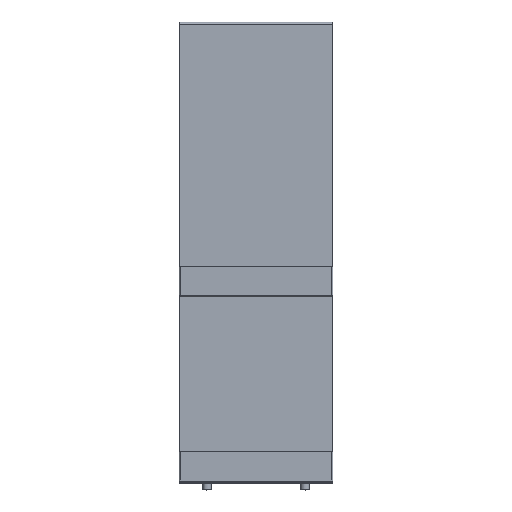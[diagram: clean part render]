
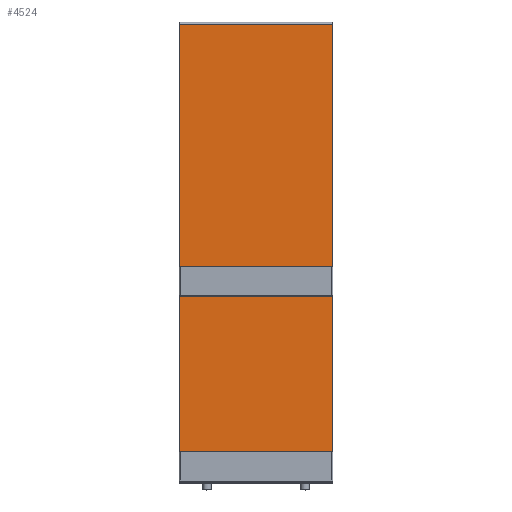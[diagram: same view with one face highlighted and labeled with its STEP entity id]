
A CAD part, top view. The second image highlights one B-rep face of the part: STEP entity #4524.
In plain terms, the highlighted planar face has unit normal (0, 0, 1).
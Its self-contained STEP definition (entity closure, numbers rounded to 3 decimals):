
#159 = CIRCLE ( 'NONE', #1871, 5.5 ) ;
#178 = LINE ( 'NONE', #1834, #4677 ) ;
#263 = DIRECTION ( 'NONE',  ( 1., 0., 0. ) ) ;
#331 = CARTESIAN_POINT ( 'NONE',  ( 105., -50.19, 0. ) ) ;
#370 = CIRCLE ( 'NONE', #1291, 5. ) ;
#415 = VERTEX_POINT ( 'NONE', #5959 ) ;
#418 = DIRECTION ( 'NONE',  ( 0., 0., 1. ) ) ;
#446 = CIRCLE ( 'NONE', #6057, 5.5 ) ;
#537 = CARTESIAN_POINT ( 'NONE',  ( 125., -375., 0. ) ) ;
#605 = AXIS2_PLACEMENT_3D ( 'NONE', #797, #2954, #2884 ) ;
#642 = VERTEX_POINT ( 'NONE', #5019 ) ;
#737 = FACE_OUTER_BOUND ( 'NONE', #3406, .T. ) ;
#797 = CARTESIAN_POINT ( 'NONE',  ( -105., -50.19, 0. ) ) ;
#810 = FACE_BOUND ( 'NONE', #2829, .T. ) ;
#823 = CARTESIAN_POINT ( 'NONE',  ( -125., 372., 0. ) ) ;
#1025 = CARTESIAN_POINT ( 'NONE',  ( -105., -351.5, 0. ) ) ;
#1083 = AXIS2_PLACEMENT_3D ( 'NONE', #2013, #5807, #3083 ) ;
#1138 = ORIENTED_EDGE ( 'NONE', *, *, #1433, .F. ) ;
#1143 = VERTEX_POINT ( 'NONE', #823 ) ;
#1291 = AXIS2_PLACEMENT_3D ( 'NONE', #7001, #2945, #4577 ) ;
#1335 = EDGE_CURVE ( 'NONE', #4429, #2217, #178, .T. ) ;
#1384 = ORIENTED_EDGE ( 'NONE', *, *, #6190, .F. ) ;
#1433 = EDGE_CURVE ( 'NONE', #6436, #4389, #446, .T. ) ;
#1560 = ORIENTED_EDGE ( 'NONE', *, *, #4257, .F. ) ;
#1744 = DIRECTION ( 'NONE',  ( 0., 0., 1. ) ) ;
#1834 = CARTESIAN_POINT ( 'NONE',  ( 125., -372., 0. ) ) ;
#1871 = AXIS2_PLACEMENT_3D ( 'NONE', #1025, #1744, #4415 ) ;
#1878 = VECTOR ( 'NONE', #7062, 1000. ) ;
#1907 = DIRECTION ( 'NONE',  ( 0., 0., 1. ) ) ;
#1976 = CARTESIAN_POINT ( 'NONE',  ( 125., 372., 0. ) ) ;
#2013 = CARTESIAN_POINT ( 'NONE',  ( -105., -50.19, 0. ) ) ;
#2068 = EDGE_CURVE ( 'NONE', #4556, #2670, #4010, .T. ) ;
#2217 = VERTEX_POINT ( 'NONE', #4393 ) ;
#2434 = CARTESIAN_POINT ( 'NONE',  ( 125., -372., 0. ) ) ;
#2470 = FACE_BOUND ( 'NONE', #5500, .T. ) ;
#2510 = LINE ( 'NONE', #1976, #6908 ) ;
#2559 = AXIS2_PLACEMENT_3D ( 'NONE', #6825, #4177, #6858 ) ;
#2582 = AXIS2_PLACEMENT_3D ( 'NONE', #2796, #4391, #7050 ) ;
#2670 = VERTEX_POINT ( 'NONE', #4351 ) ;
#2763 = EDGE_CURVE ( 'NONE', #1143, #2217, #5188, .T. ) ;
#2796 = CARTESIAN_POINT ( 'NONE',  ( -105., -351.5, 0. ) ) ;
#2829 = EDGE_LOOP ( 'NONE', ( #4537, #5333 ) ) ;
#2884 = DIRECTION ( 'NONE',  ( 1., 0., 0. ) ) ;
#2894 = FACE_BOUND ( 'NONE', #6931, .T. ) ;
#2945 = DIRECTION ( 'NONE',  ( 0., 0., 1. ) ) ;
#2954 = DIRECTION ( 'NONE',  ( 0., 0., 1. ) ) ;
#3000 = FACE_BOUND ( 'NONE', #6119, .T. ) ;
#3048 = DIRECTION ( 'NONE',  ( 1., 0., 0. ) ) ;
#3083 = DIRECTION ( 'NONE',  ( 1., 0., 0. ) ) ;
#3182 = DIRECTION ( 'NONE',  ( -1., 0., 0. ) ) ;
#3406 = EDGE_LOOP ( 'NONE', ( #5696, #6568, #3824, #5728 ) ) ;
#3451 = DIRECTION ( 'NONE',  ( -1., 0., 0. ) ) ;
#3548 = CARTESIAN_POINT ( 'NONE',  ( -99.5, -351.5, 0. ) ) ;
#3824 = ORIENTED_EDGE ( 'NONE', *, *, #4663, .T. ) ;
#3929 = DIRECTION ( 'NONE',  ( 0., -1., 0. ) ) ;
#4010 = CIRCLE ( 'NONE', #4917, 5. ) ;
#4060 = ORIENTED_EDGE ( 'NONE', *, *, #6195, .F. ) ;
#4119 = DIRECTION ( 'NONE',  ( 1., 0., 0. ) ) ;
#4177 = DIRECTION ( 'NONE',  ( 0., 0., 1. ) ) ;
#4227 = EDGE_CURVE ( 'NONE', #2670, #4556, #370, .T. ) ;
#4243 = VERTEX_POINT ( 'NONE', #5437 ) ;
#4250 = CARTESIAN_POINT ( 'NONE',  ( 105., -351.5, 0. ) ) ;
#4257 = EDGE_CURVE ( 'NONE', #5072, #5536, #159, .T. ) ;
#4351 = CARTESIAN_POINT ( 'NONE',  ( 100., -50.19, 0. ) ) ;
#4389 = VERTEX_POINT ( 'NONE', #6109 ) ;
#4391 = DIRECTION ( 'NONE',  ( 0., 0., 1. ) ) ;
#4393 = CARTESIAN_POINT ( 'NONE',  ( -125., -372., 0. ) ) ;
#4415 = DIRECTION ( 'NONE',  ( 1., 0., 0. ) ) ;
#4429 = VERTEX_POINT ( 'NONE', #2434 ) ;
#4524 = ADVANCED_FACE ( 'NONE', ( #810, #3000, #2470, #2894, #737 ), #4634, .T. ) ;
#4537 = ORIENTED_EDGE ( 'NONE', *, *, #2068, .F. ) ;
#4556 = VERTEX_POINT ( 'NONE', #6417 ) ;
#4577 = DIRECTION ( 'NONE',  ( 1., 0., 0. ) ) ;
#4634 = PLANE ( 'NONE',  #2559 ) ;
#4663 = EDGE_CURVE ( 'NONE', #4429, #415, #4843, .T. ) ;
#4677 = VECTOR ( 'NONE', #3451, 1000. ) ;
#4843 = LINE ( 'NONE', #537, #1878 ) ;
#4849 = CIRCLE ( 'NONE', #2582, 5.5 ) ;
#4871 = EDGE_CURVE ( 'NONE', #642, #4243, #5191, .T. ) ;
#4905 = CARTESIAN_POINT ( 'NONE',  ( -110.5, -351.5, 0. ) ) ;
#4917 = AXIS2_PLACEMENT_3D ( 'NONE', #331, #5823, #263 ) ;
#5019 = CARTESIAN_POINT ( 'NONE',  ( -110., -50.19, 0. ) ) ;
#5072 = VERTEX_POINT ( 'NONE', #3548 ) ;
#5159 = EDGE_CURVE ( 'NONE', #415, #1143, #2510, .T. ) ;
#5188 = LINE ( 'NONE', #6262, #6189 ) ;
#5191 = CIRCLE ( 'NONE', #605, 5. ) ;
#5217 = CIRCLE ( 'NONE', #1083, 5. ) ;
#5272 = CARTESIAN_POINT ( 'NONE',  ( 105., -351.5, 0. ) ) ;
#5333 = ORIENTED_EDGE ( 'NONE', *, *, #4227, .F. ) ;
#5437 = CARTESIAN_POINT ( 'NONE',  ( -100., -50.19, 0. ) ) ;
#5500 = EDGE_LOOP ( 'NONE', ( #1560, #6810 ) ) ;
#5536 = VERTEX_POINT ( 'NONE', #4905 ) ;
#5555 = CIRCLE ( 'NONE', #6007, 5.5 ) ;
#5696 = ORIENTED_EDGE ( 'NONE', *, *, #2763, .T. ) ;
#5728 = ORIENTED_EDGE ( 'NONE', *, *, #5159, .T. ) ;
#5807 = DIRECTION ( 'NONE',  ( 0., 0., 1. ) ) ;
#5823 = DIRECTION ( 'NONE',  ( 0., 0., 1. ) ) ;
#5908 = EDGE_CURVE ( 'NONE', #5536, #5072, #4849, .T. ) ;
#5959 = CARTESIAN_POINT ( 'NONE',  ( 125., 372., 0. ) ) ;
#6007 = AXIS2_PLACEMENT_3D ( 'NONE', #4250, #418, #3048 ) ;
#6049 = ORIENTED_EDGE ( 'NONE', *, *, #4871, .F. ) ;
#6057 = AXIS2_PLACEMENT_3D ( 'NONE', #5272, #1907, #4119 ) ;
#6109 = CARTESIAN_POINT ( 'NONE',  ( 99.5, -351.5, 0. ) ) ;
#6119 = EDGE_LOOP ( 'NONE', ( #1384, #6049 ) ) ;
#6189 = VECTOR ( 'NONE', #3929, 1000. ) ;
#6190 = EDGE_CURVE ( 'NONE', #4243, #642, #5217, .T. ) ;
#6195 = EDGE_CURVE ( 'NONE', #4389, #6436, #5555, .T. ) ;
#6262 = CARTESIAN_POINT ( 'NONE',  ( -125., -375., 0. ) ) ;
#6417 = CARTESIAN_POINT ( 'NONE',  ( 110., -50.19, 0. ) ) ;
#6436 = VERTEX_POINT ( 'NONE', #6793 ) ;
#6568 = ORIENTED_EDGE ( 'NONE', *, *, #1335, .F. ) ;
#6793 = CARTESIAN_POINT ( 'NONE',  ( 110.5, -351.5, 0. ) ) ;
#6810 = ORIENTED_EDGE ( 'NONE', *, *, #5908, .F. ) ;
#6825 = CARTESIAN_POINT ( 'NONE',  ( 0., 0., 0. ) ) ;
#6858 = DIRECTION ( 'NONE',  ( 1., 0., 0. ) ) ;
#6908 = VECTOR ( 'NONE', #3182, 1000. ) ;
#6931 = EDGE_LOOP ( 'NONE', ( #1138, #4060 ) ) ;
#7001 = CARTESIAN_POINT ( 'NONE',  ( 105., -50.19, 0. ) ) ;
#7050 = DIRECTION ( 'NONE',  ( 1., 0., 0. ) ) ;
#7062 = DIRECTION ( 'NONE',  ( 0., 1., 0. ) ) ;
